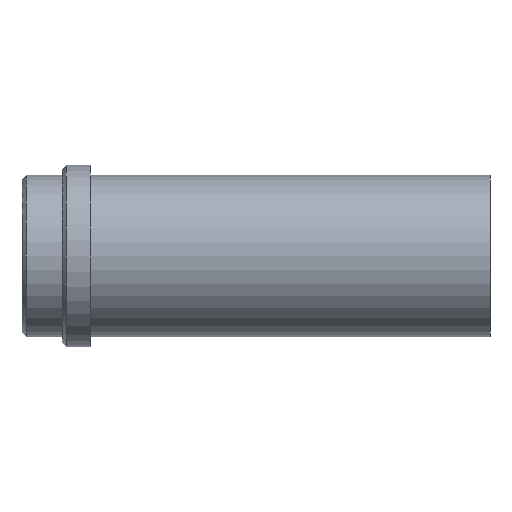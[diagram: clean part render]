
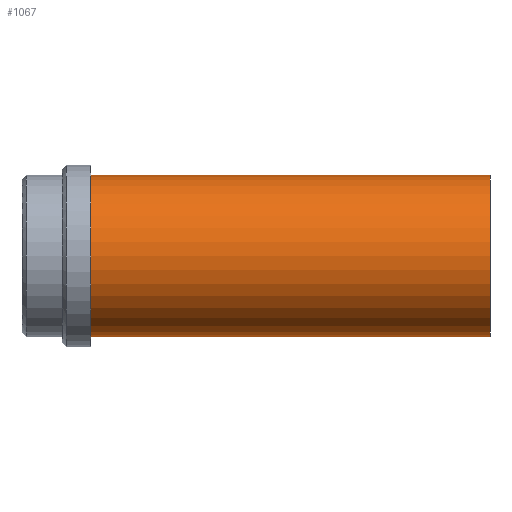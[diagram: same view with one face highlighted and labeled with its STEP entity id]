
A CAD part, front view. The second image highlights one B-rep face of the part: STEP entity #1067.
In plain terms, the highlighted cylindrical face has radius 20 mm (diameter 40 mm), a partial arc.
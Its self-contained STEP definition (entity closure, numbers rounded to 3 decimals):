
#953=CARTESIAN_POINT('Vertex',(0.,0.,-20.)) ;
#958=CARTESIAN_POINT('Axis2P3D Location',(0.,0.,0.)) ;
#962=CARTESIAN_POINT('Vertex',(0.,-20.,0.)) ;
#965=CARTESIAN_POINT('Axis2P3D Location',(0.,0.,0.)) ;
#969=CARTESIAN_POINT('Vertex',(0.,0.,20.)) ;
#995=CARTESIAN_POINT('Vertex',(99.,0.,20.)) ;
#998=CARTESIAN_POINT('Axis2P3D Location',(99.,0.,0.)) ;
#1002=CARTESIAN_POINT('Vertex',(99.,-20.,0.)) ;
#1005=CARTESIAN_POINT('Axis2P3D Location',(99.,0.,0.)) ;
#1009=CARTESIAN_POINT('Vertex',(99.,0.,-20.)) ;
#1035=CARTESIAN_POINT('Line Origine',(99.,0.,20.)) ;
#1040=CARTESIAN_POINT('Line Origine',(99.,0.,-20.)) ;
#1054=CARTESIAN_POINT('Axis2P3D Location',(99.,0.,0.)) ;
#959=DIRECTION('Axis2P3D Direction',(1.,0.,-0.)) ;
#966=DIRECTION('Axis2P3D Direction',(1.,0.,-0.)) ;
#999=DIRECTION('Axis2P3D Direction',(1.,0.,-0.)) ;
#1006=DIRECTION('Axis2P3D Direction',(1.,0.,-0.)) ;
#1036=DIRECTION('Vector Direction',(-1.,0.,0.)) ;
#1041=DIRECTION('Vector Direction',(-1.,0.,0.)) ;
#1055=DIRECTION('Axis2P3D Direction',(-1.,-0.,-0.)) ;
#1056=DIRECTION('Axis2P3D XDirection',(0.,0.,-1.)) ;
#960=AXIS2_PLACEMENT_3D('Circle Axis2P3D',#958,#959,$) ;
#967=AXIS2_PLACEMENT_3D('Circle Axis2P3D',#965,#966,$) ;
#1000=AXIS2_PLACEMENT_3D('Circle Axis2P3D',#998,#999,$) ;
#1007=AXIS2_PLACEMENT_3D('Circle Axis2P3D',#1005,#1006,$) ;
#1057=AXIS2_PLACEMENT_3D('Cylinder Axis2P3D',#1054,#1055,#1056) ;
#1060=ORIENTED_EDGE('',*,*,#1044,.T.) ;
#1061=ORIENTED_EDGE('',*,*,#1011,.F.) ;
#1062=ORIENTED_EDGE('',*,*,#1004,.F.) ;
#1063=ORIENTED_EDGE('',*,*,#1039,.T.) ;
#1064=ORIENTED_EDGE('',*,*,#971,.T.) ;
#1065=ORIENTED_EDGE('',*,*,#964,.T.) ;
#1037=VECTOR('Line Direction',#1036,1.) ;
#1042=VECTOR('Line Direction',#1041,1.) ;
#1067=ADVANCED_FACE('358-32X116',(#1066),#1058,.T.) ;
#961=CIRCLE('generated circle',#960,20.) ;
#968=CIRCLE('generated circle',#967,20.) ;
#1001=CIRCLE('generated circle',#1000,20.) ;
#1008=CIRCLE('generated circle',#1007,20.) ;
#1058=CYLINDRICAL_SURFACE('generated cylinder',#1057,20.) ;
#964=EDGE_CURVE('',#963,#954,#961,.T.) ;
#971=EDGE_CURVE('',#970,#963,#968,.T.) ;
#1004=EDGE_CURVE('',#996,#1003,#1001,.T.) ;
#1011=EDGE_CURVE('',#1003,#1010,#1008,.T.) ;
#1039=EDGE_CURVE('',#996,#970,#1038,.T.) ;
#1044=EDGE_CURVE('',#954,#1010,#1043,.F.) ;
#1059=EDGE_LOOP('',(#1060,#1061,#1062,#1063,#1064,#1065)) ;
#1066=FACE_OUTER_BOUND('',#1059,.T.) ;
#1038=LINE('Line',#1035,#1037) ;
#1043=LINE('Line',#1040,#1042) ;
#954=VERTEX_POINT('',#953) ;
#963=VERTEX_POINT('',#962) ;
#970=VERTEX_POINT('',#969) ;
#996=VERTEX_POINT('',#995) ;
#1003=VERTEX_POINT('',#1002) ;
#1010=VERTEX_POINT('',#1009) ;
